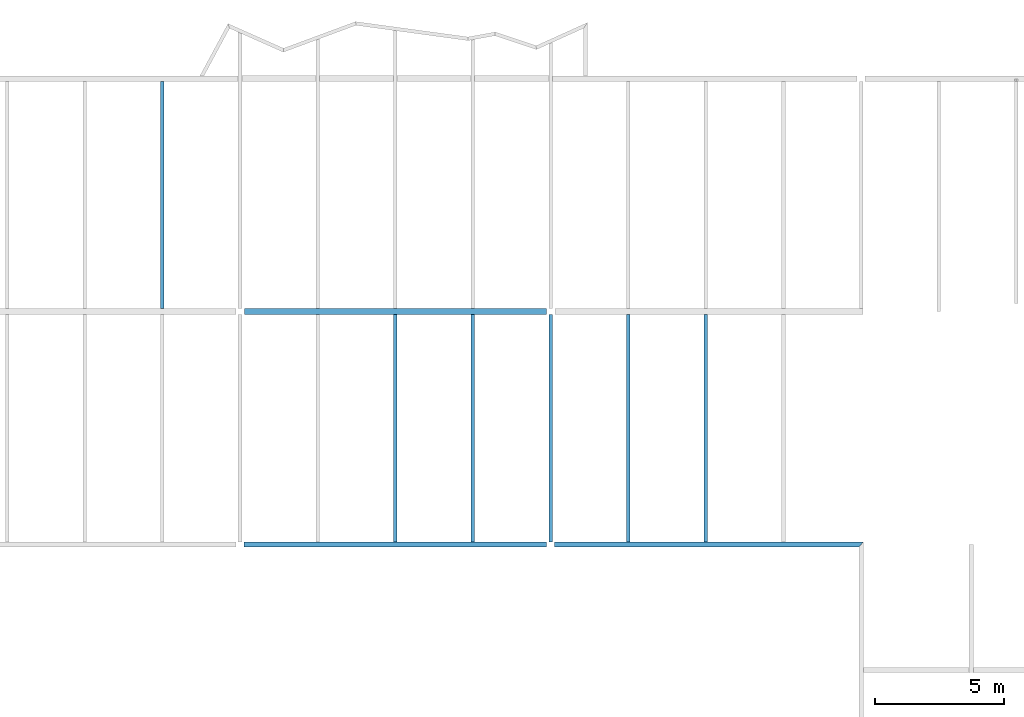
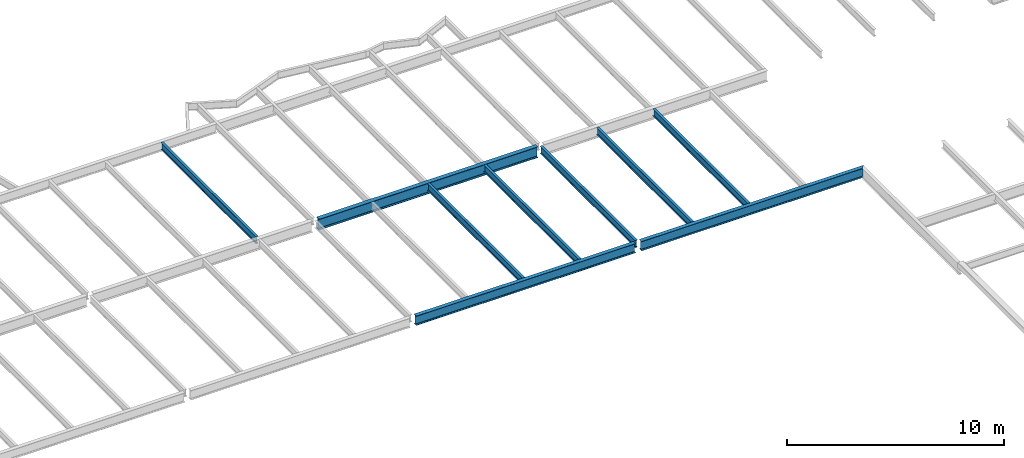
# One storey, part 8 of 26: 9 beams.
"""IFC2X3 building model written with IfcOpenShell, lengths in millimetres."""

from ifc_helpers import new_model, si_unit, origin, place, context, project, spatial, faceted_brep, material, element, save


model = new_model("IFC2X3")

# Units and contexts
context_of_model = context(None, 3, precision=1e-05, world=origin())
ifc_project = project(units=[si_unit("LENGTHUNIT", "METRE", prefix="MILLI")], contexts=[context_of_model])

# Building, storey
building = spatial("IfcBuilding", under=ifc_project, Name="Building", CompositionType="ELEMENT")
storey = spatial("IfcBuildingStorey", under=building, Name="FL4-FRM", CompositionType="ELEMENT")

# Beams
ifc_material_1 = material(Name="A992")
beam_1_placement = place(None, origin())
element("IfcBeam", 1, at=beam_1_placement, inside=storey, material=ifc_material_1, Name="B13", context=context_of_model, shape_type="Brep", body=[
    faceted_brep([(-27070.0, 35895.5, 12974.0), (-26930.0, 35895.5, 12974.0), (-26930.0, 27114.5, 12974.0), (-27070.0, 27114.5, 12974.0), (-26930.0, 35895.5, 12982.8), (-26930.0, 27114.5, 12982.8), (-26986.6, 35895.5, 12982.8), (-26986.6, 27114.5, 12982.8), (-26989.2, 35895.5, 12983.1), (-26989.2, 27114.5, 12983.1), (-26991.7, 35895.5, 12984.2), (-26991.7, 27114.5, 12984.2), (-26993.8, 35895.5, 12985.8), (-26993.8, 27114.5, 12985.8), (-26995.4, 35895.5, 12987.9), (-26995.4, 27114.5, 12987.9), (-26996.5, 35895.5, 12990.4), (-26996.5, 27114.5, 12990.4), (-26996.8, 35895.5, 12993.0), (-26996.8, 27114.5, 12993.0), (-26996.8, 35895.5, 13354.0), (-26996.8, 27114.5, 13354.0), (-26996.5, 35895.5, 13356.6), (-26996.5, 27114.5, 13356.6), (-26995.4, 35895.5, 13359.1), (-26995.4, 27114.5, 13359.1), (-26993.8, 35895.5, 13361.2), (-26993.8, 27114.5, 13361.2), (-26991.7, 35895.5, 13362.8), (-26991.7, 27114.5, 13362.8), (-26989.2, 35895.5, 13363.9), (-26989.2, 27114.5, 13363.9), (-26986.6, 35895.5, 13364.2), (-26986.6, 27114.5, 13364.2), (-26930.0, 35895.5, 13364.2), (-26930.0, 27114.5, 13364.2), (-26930.0, 35895.5, 13373.0), (-26930.0, 27114.5, 13373.0), (-27070.0, 35895.5, 13373.0), (-27070.0, 27114.5, 13373.0), (-27070.0, 35895.5, 13364.2), (-27070.0, 27114.5, 13364.2), (-27013.4, 35895.5, 13364.2), (-27013.4, 27114.5, 13364.2), (-27010.8, 35895.5, 13363.9), (-27010.8, 27114.5, 13363.9), (-27008.3, 35895.5, 13362.8), (-27008.3, 27114.5, 13362.8), (-27006.2, 35895.5, 13361.2), (-27006.2, 27114.5, 13361.2), (-27004.6, 35895.5, 13359.1), (-27004.6, 27114.5, 13359.1), (-27003.5, 35895.5, 13356.6), (-27003.5, 27114.5, 13356.6), (-27003.2, 35895.5, 13354.0), (-27003.2, 27114.5, 13354.0), (-27003.2, 35895.5, 12993.0), (-27003.2, 27114.5, 12993.0), (-27003.5, 35895.5, 12990.4), (-27003.5, 27114.5, 12990.4), (-27004.6, 35895.5, 12987.9), (-27004.6, 27114.5, 12987.9), (-27006.2, 35895.5, 12985.8), (-27006.2, 27114.5, 12985.8), (-27008.3, 35895.5, 12984.2), (-27008.3, 27114.5, 12984.2), (-27010.8, 35895.5, 12983.1), (-27010.8, 27114.5, 12983.1), (-27013.4, 35895.5, 12982.8), (-27013.4, 27114.5, 12982.8), (-27070.0, 35895.5, 12982.8), (-27070.0, 27114.5, 12982.8)], [[[0, 1, 2, 3]], [[1, 4, 5, 2]], [[4, 6, 7, 5]], [[6, 8, 9, 7]], [[8, 10, 11, 9]], [[10, 12, 13, 11]], [[12, 14, 15, 13]], [[14, 16, 17, 15]], [[16, 18, 19, 17]], [[18, 20, 21, 19]], [[20, 22, 23, 21]], [[22, 24, 25, 23]], [[24, 26, 27, 25]], [[26, 28, 29, 27]], [[28, 30, 31, 29]], [[30, 32, 33, 31]], [[32, 34, 35, 33]], [[34, 36, 37, 35]], [[36, 38, 39, 37]], [[38, 40, 41, 39]], [[40, 42, 43, 41]], [[42, 44, 45, 43]], [[44, 46, 47, 45]], [[46, 48, 49, 47]], [[48, 50, 51, 49]], [[50, 52, 53, 51]], [[52, 54, 55, 53]], [[54, 56, 57, 55]], [[56, 58, 59, 57]], [[58, 60, 61, 59]], [[60, 62, 63, 61]], [[62, 64, 65, 63]], [[64, 66, 67, 65]], [[66, 68, 69, 67]], [[68, 70, 71, 69]], [[70, 0, 3, 71]], [[0, 70, 68, 66, 64, 62, 60, 58, 56, 54, 52, 50, 48, 46, 44, 42, 40, 38, 36, 34, 32, 30, 28, 26, 24, 22, 20, 18, 16, 14, 12, 10, 8, 6, 4, 1]], [[3, 2, 5, 7, 9, 11, 13, 15, 17, 19, 21, 23, 25, 27, 29, 31, 33, 35, 37, 39, 41, 43, 45, 47, 49, 51, 53, 55, 57, 59, 61, 63, 65, 67, 69, 71]]]),
])
ifc_material_2 = material(Name="A992")
beam_2_placement = place(None, origin())
element("IfcBeam", 2, at=beam_2_placement, inside=storey, material=ifc_material_2, Name="Column356", context=context_of_model, shape_type="Brep", body=[
    faceted_brep([(-23836.5, 26885.5, 12761.0), (-23836.5, 27114.5, 12761.0), (-12163.5, 27114.5, 12761.0), (-12163.5, 26885.5, 12761.0), (-23836.5, 27114.5, 12780.6), (-12163.5, 27114.5, 12780.6), (-23836.5, 27018.6, 12780.6), (-12163.5, 27018.6, 12780.6), (-23836.5, 27015.4, 12781.0), (-12163.5, 27015.4, 12781.0), (-23836.5, 27012.3, 12782.3), (-12163.5, 27012.3, 12782.3), (-23836.5, 27009.7, 12784.3), (-12163.5, 27009.7, 12784.3), (-23836.5, 27007.7, 12787.0), (-12163.5, 27007.7, 12787.0), (-23836.5, 27006.4, 12790.0), (-12163.5, 27006.4, 12790.0), (-23836.5, 27005.9, 12793.3), (-12163.5, 27005.9, 12793.3), (-23836.5, 27005.9, 13340.7), (-12163.5, 27005.9, 13340.7), (-23836.5, 27006.4, 13344.0), (-12163.5, 27006.4, 13344.0), (-23836.5, 27007.7, 13347.0), (-12163.5, 27007.7, 13347.0), (-23836.5, 27009.7, 13349.7), (-12163.5, 27009.7, 13349.7), (-23836.5, 27012.3, 13351.7), (-12163.5, 27012.3, 13351.7), (-23836.5, 27015.4, 13353.0), (-12163.5, 27015.4, 13353.0), (-23836.5, 27018.6, 13353.4), (-12163.5, 27018.6, 13353.4), (-23836.5, 27114.5, 13353.4), (-12163.5, 27114.5, 13353.4), (-23836.5, 27114.5, 13373.0), (-12163.5, 27114.5, 13373.0), (-23836.5, 26885.5, 13373.0), (-12163.5, 26885.5, 13373.0), (-23836.5, 26885.5, 13353.4), (-12163.5, 26885.5, 13353.4), (-23836.5, 26981.4, 13353.4), (-12163.5, 26981.4, 13353.4), (-23836.5, 26984.6, 13353.0), (-12163.5, 26984.6, 13353.0), (-23836.5, 26987.7, 13351.7), (-12163.5, 26987.7, 13351.7), (-23836.5, 26990.3, 13349.7), (-12163.5, 26990.3, 13349.7), (-23836.5, 26992.3, 13347.0), (-12163.5, 26992.3, 13347.0), (-23836.5, 26993.6, 13344.0), (-12163.5, 26993.6, 13344.0), (-23836.5, 26994.1, 13340.7), (-12163.5, 26994.1, 13340.7), (-23836.5, 26994.1, 12793.3), (-12163.5, 26994.1, 12793.3), (-23836.5, 26993.6, 12790.0), (-12163.5, 26993.6, 12790.0), (-23836.5, 26992.3, 12787.0), (-12163.5, 26992.3, 12787.0), (-23836.5, 26990.3, 12784.3), (-12163.5, 26990.3, 12784.3), (-23836.5, 26987.7, 12782.3), (-12163.5, 26987.7, 12782.3), (-23836.5, 26984.6, 12781.0), (-12163.5, 26984.6, 12781.0), (-23836.5, 26981.4, 12780.6), (-12163.5, 26981.4, 12780.6), (-23836.5, 26885.5, 12780.6), (-12163.5, 26885.5, 12780.6)], [[[0, 1, 2, 3]], [[1, 4, 5, 2]], [[4, 6, 7, 5]], [[6, 8, 9, 7]], [[8, 10, 11, 9]], [[10, 12, 13, 11]], [[12, 14, 15, 13]], [[14, 16, 17, 15]], [[16, 18, 19, 17]], [[18, 20, 21, 19]], [[20, 22, 23, 21]], [[22, 24, 25, 23]], [[24, 26, 27, 25]], [[26, 28, 29, 27]], [[28, 30, 31, 29]], [[30, 32, 33, 31]], [[32, 34, 35, 33]], [[34, 36, 37, 35]], [[36, 38, 39, 37]], [[38, 40, 41, 39]], [[40, 42, 43, 41]], [[42, 44, 45, 43]], [[44, 46, 47, 45]], [[46, 48, 49, 47]], [[48, 50, 51, 49]], [[50, 52, 53, 51]], [[52, 54, 55, 53]], [[54, 56, 57, 55]], [[56, 58, 59, 57]], [[58, 60, 61, 59]], [[60, 62, 63, 61]], [[62, 64, 65, 63]], [[64, 66, 67, 65]], [[66, 68, 69, 67]], [[68, 70, 71, 69]], [[70, 0, 3, 71]], [[0, 70, 68, 66, 64, 62, 60, 58, 56, 54, 52, 50, 48, 46, 44, 42, 40, 38, 36, 34, 32, 30, 28, 26, 24, 22, 20, 18, 16, 14, 12, 10, 8, 6, 4, 1]], [[3, 2, 5, 7, 9, 11, 13, 15, 17, 19, 21, 23, 25, 27, 29, 31, 33, 35, 37, 39, 41, 43, 45, 47, 49, 51, 53, 55, 57, 59, 61, 63, 65, 67, 69, 71]]]),
])
ifc_material_3 = material(Name="A992")
beam_3_placement = place(None, origin())
element("IfcBeam", 3, at=beam_3_placement, inside=storey, material=ifc_material_3, Name="Column381", context=context_of_model, shape_type="Brep", body=[
    faceted_brep([(-23846.0, 17895.5, 12845.0), (-23846.0, 18104.5, 12845.0), (-12154.0, 18104.5, 12845.0), (-12154.0, 17895.5, 12845.0), (-23846.0, 18104.5, 12858.3), (-12154.0, 18104.5, 12858.3), (-23846.0, 18017.4, 12858.3), (-12154.0, 18017.4, 12858.3), (-23846.0, 18014.2, 12858.7), (-12154.0, 18014.2, 12858.7), (-23846.0, 18011.1, 12860.0), (-12154.0, 18011.1, 12860.0), (-23846.0, 18008.5, 12862.0), (-12154.0, 18008.5, 12862.0), (-23846.0, 18006.5, 12864.7), (-12154.0, 18006.5, 12864.7), (-23846.0, 18005.2, 12867.7), (-12154.0, 18005.2, 12867.7), (-23846.0, 18004.8, 12871.0), (-12154.0, 18004.8, 12871.0), (-23846.0, 18004.8, 13347.0), (-12154.0, 18004.8, 13347.0), (-23846.0, 18005.2, 13350.3), (-12154.0, 18005.2, 13350.3), (-23846.0, 18006.5, 13353.3), (-12154.0, 18006.5, 13353.3), (-23846.0, 18008.5, 13356.0), (-12154.0, 18008.5, 13356.0), (-23846.0, 18011.1, 13358.0), (-12154.0, 18011.1, 13358.0), (-23846.0, 18014.2, 13359.3), (-12154.0, 18014.2, 13359.3), (-23846.0, 18017.4, 13359.7), (-12154.0, 18017.4, 13359.7), (-23846.0, 18104.5, 13359.7), (-12154.0, 18104.5, 13359.7), (-23846.0, 18104.5, 13373.0), (-12154.0, 18104.5, 13373.0), (-23846.0, 17895.5, 13373.0), (-12154.0, 17895.5, 13373.0), (-23846.0, 17895.5, 13359.7), (-12154.0, 17895.5, 13359.7), (-23846.0, 17982.6, 13359.7), (-12154.0, 17982.6, 13359.7), (-23846.0, 17985.8, 13359.3), (-12154.0, 17985.8, 13359.3), (-23846.0, 17988.9, 13358.0), (-12154.0, 17988.9, 13358.0), (-23846.0, 17991.5, 13356.0), (-12154.0, 17991.5, 13356.0), (-23846.0, 17993.5, 13353.3), (-12154.0, 17993.5, 13353.3), (-23846.0, 17994.8, 13350.3), (-12154.0, 17994.8, 13350.3), (-23846.0, 17995.3, 13347.0), (-12154.0, 17995.3, 13347.0), (-23846.0, 17995.3, 12871.0), (-12154.0, 17995.3, 12871.0), (-23846.0, 17994.8, 12867.7), (-12154.0, 17994.8, 12867.7), (-23846.0, 17993.5, 12864.7), (-12154.0, 17993.5, 12864.7), (-23846.0, 17991.5, 12862.0), (-12154.0, 17991.5, 12862.0), (-23846.0, 17988.9, 12860.0), (-12154.0, 17988.9, 12860.0), (-23846.0, 17985.8, 12858.7), (-12154.0, 17985.8, 12858.7), (-23846.0, 17982.6, 12858.3), (-12154.0, 17982.6, 12858.3), (-23846.0, 17895.5, 12858.3), (-12154.0, 17895.5, 12858.3)], [[[0, 1, 2, 3]], [[1, 4, 5, 2]], [[4, 6, 7, 5]], [[6, 8, 9, 7]], [[8, 10, 11, 9]], [[10, 12, 13, 11]], [[12, 14, 15, 13]], [[14, 16, 17, 15]], [[16, 18, 19, 17]], [[18, 20, 21, 19]], [[20, 22, 23, 21]], [[22, 24, 25, 23]], [[24, 26, 27, 25]], [[26, 28, 29, 27]], [[28, 30, 31, 29]], [[30, 32, 33, 31]], [[32, 34, 35, 33]], [[34, 36, 37, 35]], [[36, 38, 39, 37]], [[38, 40, 41, 39]], [[40, 42, 43, 41]], [[42, 44, 45, 43]], [[44, 46, 47, 45]], [[46, 48, 49, 47]], [[48, 50, 51, 49]], [[50, 52, 53, 51]], [[52, 54, 55, 53]], [[54, 56, 57, 55]], [[56, 58, 59, 57]], [[58, 60, 61, 59]], [[60, 62, 63, 61]], [[62, 64, 65, 63]], [[64, 66, 67, 65]], [[66, 68, 69, 67]], [[68, 70, 71, 69]], [[70, 0, 3, 71]], [[0, 70, 68, 66, 64, 62, 60, 58, 56, 54, 52, 50, 48, 46, 44, 42, 40, 38, 36, 34, 32, 30, 28, 26, 24, 22, 20, 18, 16, 14, 12, 10, 8, 6, 4, 1]], [[3, 2, 5, 7, 9, 11, 13, 15, 17, 19, 21, 23, 25, 27, 29, 31, 33, 35, 37, 39, 41, 43, 45, 47, 49, 51, 53, 55, 57, 59, 61, 63, 65, 67, 69, 71]]]),
])
ifc_material_4 = material(Name="A992")
beam_4_placement = place(None, origin())
element("IfcBeam", 4, at=beam_4_placement, inside=storey, material=ifc_material_4, Name="Column382", context=context_of_model, shape_type="Brep", body=[
    faceted_brep([(-11846.0, 17895.5, 12845.0), (-11846.0, 18104.5, 12845.0), (89.5, 18104.5, 12845.0), (-89.5, 17895.5, 12845.0), (-11846.0, 18104.5, 12858.3), (89.5, 18104.5, 12858.3), (-11846.0, 18017.4, 12858.3), (14.9452, 18017.4, 12858.3), (-11846.0, 18015.6, 12858.4), (13.41, 18015.7, 12858.4), (-11846.0, 18013.9, 12858.8), (11.894, 18013.9, 12858.8), (-11846.0, 18012.2, 12859.4), (10.4398, 18012.2, 12859.4), (-11846.0, 18010.6, 12860.3), (9.09833, 18010.6, 12860.3), (-11846.0, 18009.1, 12861.4), (7.83895, 18009.2, 12861.4), (-11846.0, 18007.9, 12862.7), (6.74994, 18007.9, 12862.7), (-11846.0, 18006.8, 12864.1), (5.82077, 18006.8, 12864.1), (-11846.0, 18005.9, 12865.7), (5.05428, 18005.9, 12865.7), (-11846.0, 18005.3, 12867.4), (4.53222, 18005.3, 12867.4), (-11846.0, 18004.9, 12869.2), (4.20582, 18004.9, 12869.2), (-11846.0, 18004.8, 12871.0), (4.06818, 18004.8, 12871.0), (-11846.0, 18004.8, 13347.0), (4.06818, 18004.8, 13347.0), (-11846.0, 18004.9, 13348.8), (4.20582, 18004.9, 13348.8), (-11846.0, 18005.3, 13350.6), (4.53222, 18005.3, 13350.6), (-11846.0, 18005.9, 13352.3), (5.05428, 18005.9, 13352.3), (-11846.0, 18006.8, 13353.9), (5.82077, 18006.8, 13353.9), (-11846.0, 18007.9, 13355.3), (6.74994, 18007.9, 13355.3), (-11846.0, 18009.1, 13356.6), (7.83895, 18009.2, 13356.6), (-11846.0, 18010.6, 13357.7), (9.09833, 18010.6, 13357.7), (-11846.0, 18012.2, 13358.6), (10.4398, 18012.2, 13358.6), (-11846.0, 18013.9, 13359.2), (11.894, 18013.9, 13359.2), (-11846.0, 18015.6, 13359.6), (13.41, 18015.7, 13359.6), (-11846.0, 18017.4, 13359.7), (14.9452, 18017.4, 13359.7), (-11846.0, 18104.5, 13359.7), (89.5, 18104.5, 13359.7), (-11846.0, 18104.5, 13373.0), (89.5, 18104.5, 13373.0), (-11846.0, 17895.5, 13373.0), (-89.5, 17895.5, 13373.0), (-11846.0, 17895.5, 13359.7), (-89.5, 17895.5, 13359.7), (-11846.0, 17982.6, 13359.7), (-14.9452, 17982.6, 13359.7), (-11846.0, 17984.4, 13359.6), (-13.41, 17984.3, 13359.6), (-11846.0, 17986.1, 13359.2), (-11.894, 17986.1, 13359.2), (-11846.0, 17987.8, 13358.6), (-10.4398, 17987.8, 13358.6), (-11846.0, 17989.4, 13357.7), (-9.09833, 17989.4, 13357.7), (-11846.0, 17990.9, 13356.6), (-7.83895, 17990.8, 13356.6), (-11846.0, 17992.1, 13355.3), (-6.74994, 17992.1, 13355.3), (-11846.0, 17993.2, 13353.9), (-5.82077, 17993.2, 13353.9), (-11846.0, 17994.1, 13352.3), (-5.05428, 17994.1, 13352.3), (-11846.0, 17994.7, 13350.6), (-4.53222, 17994.7, 13350.6), (-11846.0, 17995.1, 13348.8), (-4.20582, 17995.1, 13348.8), (-11846.0, 17995.3, 13347.0), (-4.06818, 17995.3, 13347.0), (-11846.0, 17995.3, 12871.0), (-4.06818, 17995.3, 12871.0), (-11846.0, 17995.1, 12869.2), (-4.20582, 17995.1, 12869.2), (-11846.0, 17994.7, 12867.4), (-4.53222, 17994.7, 12867.4), (-11846.0, 17994.1, 12865.7), (-5.05428, 17994.1, 12865.7), (-11846.0, 17993.2, 12864.1), (-5.82077, 17993.2, 12864.1), (-11846.0, 17992.1, 12862.7), (-6.74994, 17992.1, 12862.7), (-11846.0, 17990.9, 12861.4), (-7.83895, 17990.8, 12861.4), (-11846.0, 17989.4, 12860.3), (-9.09833, 17989.4, 12860.3), (-11846.0, 17987.8, 12859.4), (-10.4398, 17987.8, 12859.4), (-11846.0, 17986.1, 12858.8), (-11.894, 17986.1, 12858.8), (-11846.0, 17984.4, 12858.4), (-13.41, 17984.3, 12858.4), (-11846.0, 17982.6, 12858.3), (-14.9452, 17982.6, 12858.3), (-11846.0, 17895.5, 12858.3), (-89.5, 17895.5, 12858.3)], [[[0, 1, 2, 3]], [[1, 4, 5, 2]], [[4, 6, 7, 5]], [[6, 8, 9, 7]], [[8, 10, 11, 9]], [[10, 12, 13, 11]], [[12, 14, 15, 13]], [[14, 16, 17, 15]], [[16, 18, 19, 17]], [[18, 20, 21, 19]], [[20, 22, 23, 21]], [[22, 24, 25, 23]], [[24, 26, 27, 25]], [[26, 28, 29, 27]], [[28, 30, 31, 29]], [[30, 32, 33, 31]], [[32, 34, 35, 33]], [[34, 36, 37, 35]], [[36, 38, 39, 37]], [[38, 40, 41, 39]], [[40, 42, 43, 41]], [[42, 44, 45, 43]], [[44, 46, 47, 45]], [[46, 48, 49, 47]], [[48, 50, 51, 49]], [[50, 52, 53, 51]], [[52, 54, 55, 53]], [[54, 56, 57, 55]], [[56, 58, 59, 57]], [[58, 60, 61, 59]], [[60, 62, 63, 61]], [[62, 64, 65, 63]], [[64, 66, 67, 65]], [[66, 68, 69, 67]], [[68, 70, 71, 69]], [[70, 72, 73, 71]], [[72, 74, 75, 73]], [[74, 76, 77, 75]], [[76, 78, 79, 77]], [[78, 80, 81, 79]], [[80, 82, 83, 81]], [[82, 84, 85, 83]], [[84, 86, 87, 85]], [[86, 88, 89, 87]], [[88, 90, 91, 89]], [[90, 92, 93, 91]], [[92, 94, 95, 93]], [[94, 96, 97, 95]], [[96, 98, 99, 97]], [[98, 100, 101, 99]], [[100, 102, 103, 101]], [[102, 104, 105, 103]], [[104, 106, 107, 105]], [[106, 108, 109, 107]], [[108, 110, 111, 109]], [[110, 0, 3, 111]], [[0, 110, 108, 106, 104, 102, 100, 98, 96, 94, 92, 90, 88, 86, 84, 82, 80, 78, 76, 74, 72, 70, 68, 66, 64, 62, 60, 58, 56, 54, 52, 50, 48, 46, 44, 42, 40, 38, 36, 34, 32, 30, 28, 26, 24, 22, 20, 18, 16, 14, 12, 10, 8, 6, 4, 1]], [[3, 2, 5, 7, 9, 11, 13, 15, 17, 19, 21, 23, 25, 27, 29, 31, 33, 35, 37, 39, 41, 43, 45, 47, 49, 51, 53, 55, 57, 59, 61, 63, 65, 67, 69, 71, 73, 75, 77, 79, 81, 83, 85, 87, 89, 91, 93, 95, 97, 99, 101, 103, 105, 107, 109, 111]]]),
])
ifc_material_5 = material(Name="A992")
beam_5_placement = place(None, origin())
element("IfcBeam", 5, at=beam_5_placement, inside=storey, material=ifc_material_5, Name="B180", context=context_of_model, shape_type="Brep", body=[
    faceted_brep([(-5930.0, 18104.5, 12974.0), (-6070.0, 18104.5, 12974.0), (-6070.0, 26885.5, 12974.0), (-5930.0, 26885.5, 12974.0), (-6070.0, 18104.5, 12982.8), (-6070.0, 26885.5, 12982.8), (-6013.4, 18104.5, 12982.8), (-6013.4, 26885.5, 12982.8), (-6010.76, 18104.5, 12983.1), (-6010.76, 26885.5, 12983.1), (-6008.3, 18104.5, 12984.2), (-6008.3, 26885.5, 12984.2), (-6006.19, 18104.5, 12985.8), (-6006.19, 26885.5, 12985.8), (-6004.57, 18104.5, 12987.9), (-6004.57, 26885.5, 12987.9), (-6003.55, 18104.5, 12990.4), (-6003.55, 26885.5, 12990.4), (-6003.2, 18104.5, 12993.0), (-6003.2, 26885.5, 12993.0), (-6003.2, 18104.5, 13354.0), (-6003.2, 26885.5, 13354.0), (-6003.55, 18104.5, 13356.6), (-6003.55, 26885.5, 13356.6), (-6004.57, 18104.5, 13359.1), (-6004.57, 26885.5, 13359.1), (-6006.19, 18104.5, 13361.2), (-6006.19, 26885.5, 13361.2), (-6008.3, 18104.5, 13362.8), (-6008.3, 26885.5, 13362.8), (-6010.76, 18104.5, 13363.9), (-6010.76, 26885.5, 13363.9), (-6013.4, 18104.5, 13364.2), (-6013.4, 26885.5, 13364.2), (-6070.0, 18104.5, 13364.2), (-6070.0, 26885.5, 13364.2), (-6070.0, 18104.5, 13373.0), (-6070.0, 26885.5, 13373.0), (-5930.0, 18104.5, 13373.0), (-5930.0, 26885.5, 13373.0), (-5930.0, 18104.5, 13364.2), (-5930.0, 26885.5, 13364.2), (-5986.6, 18104.5, 13364.2), (-5986.6, 26885.5, 13364.2), (-5989.24, 18104.5, 13363.9), (-5989.24, 26885.5, 13363.9), (-5991.7, 18104.5, 13362.8), (-5991.7, 26885.5, 13362.8), (-5993.81, 18104.5, 13361.2), (-5993.81, 26885.5, 13361.2), (-5995.43, 18104.5, 13359.1), (-5995.43, 26885.5, 13359.1), (-5996.45, 18104.5, 13356.6), (-5996.45, 26885.5, 13356.6), (-5996.8, 18104.5, 13354.0), (-5996.8, 26885.5, 13354.0), (-5996.8, 18104.5, 12993.0), (-5996.8, 26885.5, 12993.0), (-5996.45, 18104.5, 12990.4), (-5996.45, 26885.5, 12990.4), (-5995.43, 18104.5, 12987.9), (-5995.43, 26885.5, 12987.9), (-5993.81, 18104.5, 12985.8), (-5993.81, 26885.5, 12985.8), (-5991.7, 18104.5, 12984.2), (-5991.7, 26885.5, 12984.2), (-5989.24, 18104.5, 12983.1), (-5989.24, 26885.5, 12983.1), (-5986.6, 18104.5, 12982.8), (-5986.6, 26885.5, 12982.8), (-5930.0, 18104.5, 12982.8), (-5930.0, 26885.5, 12982.8)], [[[0, 1, 2, 3]], [[1, 4, 5, 2]], [[4, 6, 7, 5]], [[6, 8, 9, 7]], [[8, 10, 11, 9]], [[10, 12, 13, 11]], [[12, 14, 15, 13]], [[14, 16, 17, 15]], [[16, 18, 19, 17]], [[18, 20, 21, 19]], [[20, 22, 23, 21]], [[22, 24, 25, 23]], [[24, 26, 27, 25]], [[26, 28, 29, 27]], [[28, 30, 31, 29]], [[30, 32, 33, 31]], [[32, 34, 35, 33]], [[34, 36, 37, 35]], [[36, 38, 39, 37]], [[38, 40, 41, 39]], [[40, 42, 43, 41]], [[42, 44, 45, 43]], [[44, 46, 47, 45]], [[46, 48, 49, 47]], [[48, 50, 51, 49]], [[50, 52, 53, 51]], [[52, 54, 55, 53]], [[54, 56, 57, 55]], [[56, 58, 59, 57]], [[58, 60, 61, 59]], [[60, 62, 63, 61]], [[62, 64, 65, 63]], [[64, 66, 67, 65]], [[66, 68, 69, 67]], [[68, 70, 71, 69]], [[70, 0, 3, 71]], [[0, 70, 68, 66, 64, 62, 60, 58, 56, 54, 52, 50, 48, 46, 44, 42, 40, 38, 36, 34, 32, 30, 28, 26, 24, 22, 20, 18, 16, 14, 12, 10, 8, 6, 4, 1]], [[3, 2, 5, 7, 9, 11, 13, 15, 17, 19, 21, 23, 25, 27, 29, 31, 33, 35, 37, 39, 41, 43, 45, 47, 49, 51, 53, 55, 57, 59, 61, 63, 65, 67, 69, 71]]]),
])
ifc_material_6 = material(Name="A992")
beam_6_placement = place(None, origin())
element("IfcBeam", 6, at=beam_6_placement, inside=storey, material=ifc_material_6, Name="B181", context=context_of_model, shape_type="Brep", body=[
    faceted_brep([(-8930.0, 18104.5, 12974.0), (-9070.0, 18104.5, 12974.0), (-9070.0, 26885.5, 12974.0), (-8930.0, 26885.5, 12974.0), (-9070.0, 18104.5, 12982.8), (-9070.0, 26885.5, 12982.8), (-9013.4, 18104.5, 12982.8), (-9013.4, 26885.5, 12982.8), (-9010.76, 18104.5, 12983.1), (-9010.76, 26885.5, 12983.1), (-9008.3, 18104.5, 12984.2), (-9008.3, 26885.5, 12984.2), (-9006.19, 18104.5, 12985.8), (-9006.19, 26885.5, 12985.8), (-9004.57, 18104.5, 12987.9), (-9004.57, 26885.5, 12987.9), (-9003.55, 18104.5, 12990.4), (-9003.55, 26885.5, 12990.4), (-9003.2, 18104.5, 12993.0), (-9003.2, 26885.5, 12993.0), (-9003.2, 18104.5, 13354.0), (-9003.2, 26885.5, 13354.0), (-9003.55, 18104.5, 13356.6), (-9003.55, 26885.5, 13356.6), (-9004.57, 18104.5, 13359.1), (-9004.57, 26885.5, 13359.1), (-9006.19, 18104.5, 13361.2), (-9006.19, 26885.5, 13361.2), (-9008.3, 18104.5, 13362.8), (-9008.3, 26885.5, 13362.8), (-9010.76, 18104.5, 13363.9), (-9010.76, 26885.5, 13363.9), (-9013.4, 18104.5, 13364.2), (-9013.4, 26885.5, 13364.2), (-9070.0, 18104.5, 13364.2), (-9070.0, 26885.5, 13364.2), (-9070.0, 18104.5, 13373.0), (-9070.0, 26885.5, 13373.0), (-8930.0, 18104.5, 13373.0), (-8930.0, 26885.5, 13373.0), (-8930.0, 18104.5, 13364.2), (-8930.0, 26885.5, 13364.2), (-8986.6, 18104.5, 13364.2), (-8986.6, 26885.5, 13364.2), (-8989.24, 18104.5, 13363.9), (-8989.24, 26885.5, 13363.9), (-8991.7, 18104.5, 13362.8), (-8991.7, 26885.5, 13362.8), (-8993.81, 18104.5, 13361.2), (-8993.81, 26885.5, 13361.2), (-8995.43, 18104.5, 13359.1), (-8995.43, 26885.5, 13359.1), (-8996.45, 18104.5, 13356.6), (-8996.45, 26885.5, 13356.6), (-8996.8, 18104.5, 13354.0), (-8996.8, 26885.5, 13354.0), (-8996.8, 18104.5, 12993.0), (-8996.8, 26885.5, 12993.0), (-8996.45, 18104.5, 12990.4), (-8996.45, 26885.5, 12990.4), (-8995.43, 18104.5, 12987.9), (-8995.43, 26885.5, 12987.9), (-8993.81, 18104.5, 12985.8), (-8993.81, 26885.5, 12985.8), (-8991.7, 18104.5, 12984.2), (-8991.7, 26885.5, 12984.2), (-8989.24, 18104.5, 12983.1), (-8989.24, 26885.5, 12983.1), (-8986.6, 18104.5, 12982.8), (-8986.6, 26885.5, 12982.8), (-8930.0, 18104.5, 12982.8), (-8930.0, 26885.5, 12982.8)], [[[0, 1, 2, 3]], [[1, 4, 5, 2]], [[4, 6, 7, 5]], [[6, 8, 9, 7]], [[8, 10, 11, 9]], [[10, 12, 13, 11]], [[12, 14, 15, 13]], [[14, 16, 17, 15]], [[16, 18, 19, 17]], [[18, 20, 21, 19]], [[20, 22, 23, 21]], [[22, 24, 25, 23]], [[24, 26, 27, 25]], [[26, 28, 29, 27]], [[28, 30, 31, 29]], [[30, 32, 33, 31]], [[32, 34, 35, 33]], [[34, 36, 37, 35]], [[36, 38, 39, 37]], [[38, 40, 41, 39]], [[40, 42, 43, 41]], [[42, 44, 45, 43]], [[44, 46, 47, 45]], [[46, 48, 49, 47]], [[48, 50, 51, 49]], [[50, 52, 53, 51]], [[52, 54, 55, 53]], [[54, 56, 57, 55]], [[56, 58, 59, 57]], [[58, 60, 61, 59]], [[60, 62, 63, 61]], [[62, 64, 65, 63]], [[64, 66, 67, 65]], [[66, 68, 69, 67]], [[68, 70, 71, 69]], [[70, 0, 3, 71]], [[0, 70, 68, 66, 64, 62, 60, 58, 56, 54, 52, 50, 48, 46, 44, 42, 40, 38, 36, 34, 32, 30, 28, 26, 24, 22, 20, 18, 16, 14, 12, 10, 8, 6, 4, 1]], [[3, 2, 5, 7, 9, 11, 13, 15, 17, 19, 21, 23, 25, 27, 29, 31, 33, 35, 37, 39, 41, 43, 45, 47, 49, 51, 53, 55, 57, 59, 61, 63, 65, 67, 69, 71]]]),
])
ifc_material_7 = material(Name="A992")
beam_7_placement = place(None, origin())
element("IfcBeam", 7, at=beam_7_placement, inside=storey, material=ifc_material_7, Name="B182", context=context_of_model, shape_type="Brep", body=[
    faceted_brep([(-11930.0, 18104.5, 12974.0), (-12070.0, 18104.5, 12974.0), (-12070.0, 26885.5, 12974.0), (-11930.0, 26885.5, 12974.0), (-12070.0, 18104.5, 12982.8), (-12070.0, 26885.5, 12982.8), (-12013.4, 18104.5, 12982.8), (-12013.4, 26885.5, 12982.8), (-12010.8, 18104.5, 12983.1), (-12010.8, 26885.5, 12983.1), (-12008.3, 18104.5, 12984.2), (-12008.3, 26885.5, 12984.2), (-12006.2, 18104.5, 12985.8), (-12006.2, 26885.5, 12985.8), (-12004.6, 18104.5, 12987.9), (-12004.6, 26885.5, 12987.9), (-12003.5, 18104.5, 12990.4), (-12003.5, 26885.5, 12990.4), (-12003.2, 18104.5, 12993.0), (-12003.2, 26885.5, 12993.0), (-12003.2, 18104.5, 13354.0), (-12003.2, 26885.5, 13354.0), (-12003.5, 18104.5, 13356.6), (-12003.5, 26885.5, 13356.6), (-12004.6, 18104.5, 13359.1), (-12004.6, 26885.5, 13359.1), (-12006.2, 18104.5, 13361.2), (-12006.2, 26885.5, 13361.2), (-12008.3, 18104.5, 13362.8), (-12008.3, 26885.5, 13362.8), (-12010.8, 18104.5, 13363.9), (-12010.8, 26885.5, 13363.9), (-12013.4, 18104.5, 13364.2), (-12013.4, 26885.5, 13364.2), (-12070.0, 18104.5, 13364.2), (-12070.0, 26885.5, 13364.2), (-12070.0, 18104.5, 13373.0), (-12070.0, 26885.5, 13373.0), (-11930.0, 18104.5, 13373.0), (-11930.0, 26885.5, 13373.0), (-11930.0, 18104.5, 13364.2), (-11930.0, 26885.5, 13364.2), (-11986.6, 18104.5, 13364.2), (-11986.6, 26885.5, 13364.2), (-11989.2, 18104.5, 13363.9), (-11989.2, 26885.5, 13363.9), (-11991.7, 18104.5, 13362.8), (-11991.7, 26885.5, 13362.8), (-11993.8, 18104.5, 13361.2), (-11993.8, 26885.5, 13361.2), (-11995.4, 18104.5, 13359.1), (-11995.4, 26885.5, 13359.1), (-11996.5, 18104.5, 13356.6), (-11996.5, 26885.5, 13356.6), (-11996.8, 18104.5, 13354.0), (-11996.8, 26885.5, 13354.0), (-11996.8, 18104.5, 12993.0), (-11996.8, 26885.5, 12993.0), (-11996.5, 18104.5, 12990.4), (-11996.5, 26885.5, 12990.4), (-11995.4, 18104.5, 12987.9), (-11995.4, 26885.5, 12987.9), (-11993.8, 18104.5, 12985.8), (-11993.8, 26885.5, 12985.8), (-11991.7, 18104.5, 12984.2), (-11991.7, 26885.5, 12984.2), (-11989.2, 18104.5, 12983.1), (-11989.2, 26885.5, 12983.1), (-11986.6, 18104.5, 12982.8), (-11986.6, 26885.5, 12982.8), (-11930.0, 18104.5, 12982.8), (-11930.0, 26885.5, 12982.8)], [[[0, 1, 2, 3]], [[1, 4, 5, 2]], [[4, 6, 7, 5]], [[6, 8, 9, 7]], [[8, 10, 11, 9]], [[10, 12, 13, 11]], [[12, 14, 15, 13]], [[14, 16, 17, 15]], [[16, 18, 19, 17]], [[18, 20, 21, 19]], [[20, 22, 23, 21]], [[22, 24, 25, 23]], [[24, 26, 27, 25]], [[26, 28, 29, 27]], [[28, 30, 31, 29]], [[30, 32, 33, 31]], [[32, 34, 35, 33]], [[34, 36, 37, 35]], [[36, 38, 39, 37]], [[38, 40, 41, 39]], [[40, 42, 43, 41]], [[42, 44, 45, 43]], [[44, 46, 47, 45]], [[46, 48, 49, 47]], [[48, 50, 51, 49]], [[50, 52, 53, 51]], [[52, 54, 55, 53]], [[54, 56, 57, 55]], [[56, 58, 59, 57]], [[58, 60, 61, 59]], [[60, 62, 63, 61]], [[62, 64, 65, 63]], [[64, 66, 67, 65]], [[66, 68, 69, 67]], [[68, 70, 71, 69]], [[70, 0, 3, 71]], [[0, 70, 68, 66, 64, 62, 60, 58, 56, 54, 52, 50, 48, 46, 44, 42, 40, 38, 36, 34, 32, 30, 28, 26, 24, 22, 20, 18, 16, 14, 12, 10, 8, 6, 4, 1]], [[3, 2, 5, 7, 9, 11, 13, 15, 17, 19, 21, 23, 25, 27, 29, 31, 33, 35, 37, 39, 41, 43, 45, 47, 49, 51, 53, 55, 57, 59, 61, 63, 65, 67, 69, 71]]]),
])
ifc_material_8 = material(Name="A992")
beam_8_placement = place(None, origin())
element("IfcBeam", 8, at=beam_8_placement, inside=storey, material=ifc_material_8, Name="B183", context=context_of_model, shape_type="Brep", body=[
    faceted_brep([(-14930.0, 18104.5, 12974.0), (-15070.0, 18104.5, 12974.0), (-15070.0, 26885.5, 12974.0), (-14930.0, 26885.5, 12974.0), (-15070.0, 18104.5, 12982.8), (-15070.0, 26885.5, 12982.8), (-15013.4, 18104.5, 12982.8), (-15013.4, 26885.5, 12982.8), (-15010.8, 18104.5, 12983.1), (-15010.8, 26885.5, 12983.1), (-15008.3, 18104.5, 12984.2), (-15008.3, 26885.5, 12984.2), (-15006.2, 18104.5, 12985.8), (-15006.2, 26885.5, 12985.8), (-15004.6, 18104.5, 12987.9), (-15004.6, 26885.5, 12987.9), (-15003.5, 18104.5, 12990.4), (-15003.5, 26885.5, 12990.4), (-15003.2, 18104.5, 12993.0), (-15003.2, 26885.5, 12993.0), (-15003.2, 18104.5, 13354.0), (-15003.2, 26885.5, 13354.0), (-15003.5, 18104.5, 13356.6), (-15003.5, 26885.5, 13356.6), (-15004.6, 18104.5, 13359.1), (-15004.6, 26885.5, 13359.1), (-15006.2, 18104.5, 13361.2), (-15006.2, 26885.5, 13361.2), (-15008.3, 18104.5, 13362.8), (-15008.3, 26885.5, 13362.8), (-15010.8, 18104.5, 13363.9), (-15010.8, 26885.5, 13363.9), (-15013.4, 18104.5, 13364.2), (-15013.4, 26885.5, 13364.2), (-15070.0, 18104.5, 13364.2), (-15070.0, 26885.5, 13364.2), (-15070.0, 18104.5, 13373.0), (-15070.0, 26885.5, 13373.0), (-14930.0, 18104.5, 13373.0), (-14930.0, 26885.5, 13373.0), (-14930.0, 18104.5, 13364.2), (-14930.0, 26885.5, 13364.2), (-14986.6, 18104.5, 13364.2), (-14986.6, 26885.5, 13364.2), (-14989.2, 18104.5, 13363.9), (-14989.2, 26885.5, 13363.9), (-14991.7, 18104.5, 13362.8), (-14991.7, 26885.5, 13362.8), (-14993.8, 18104.5, 13361.2), (-14993.8, 26885.5, 13361.2), (-14995.4, 18104.5, 13359.1), (-14995.4, 26885.5, 13359.1), (-14996.5, 18104.5, 13356.6), (-14996.5, 26885.5, 13356.6), (-14996.8, 18104.5, 13354.0), (-14996.8, 26885.5, 13354.0), (-14996.8, 18104.5, 12993.0), (-14996.8, 26885.5, 12993.0), (-14996.5, 18104.5, 12990.4), (-14996.5, 26885.5, 12990.4), (-14995.4, 18104.5, 12987.9), (-14995.4, 26885.5, 12987.9), (-14993.8, 18104.5, 12985.8), (-14993.8, 26885.5, 12985.8), (-14991.7, 18104.5, 12984.2), (-14991.7, 26885.5, 12984.2), (-14989.2, 18104.5, 12983.1), (-14989.2, 26885.5, 12983.1), (-14986.6, 18104.5, 12982.8), (-14986.6, 26885.5, 12982.8), (-14930.0, 18104.5, 12982.8), (-14930.0, 26885.5, 12982.8)], [[[0, 1, 2, 3]], [[1, 4, 5, 2]], [[4, 6, 7, 5]], [[6, 8, 9, 7]], [[8, 10, 11, 9]], [[10, 12, 13, 11]], [[12, 14, 15, 13]], [[14, 16, 17, 15]], [[16, 18, 19, 17]], [[18, 20, 21, 19]], [[20, 22, 23, 21]], [[22, 24, 25, 23]], [[24, 26, 27, 25]], [[26, 28, 29, 27]], [[28, 30, 31, 29]], [[30, 32, 33, 31]], [[32, 34, 35, 33]], [[34, 36, 37, 35]], [[36, 38, 39, 37]], [[38, 40, 41, 39]], [[40, 42, 43, 41]], [[42, 44, 45, 43]], [[44, 46, 47, 45]], [[46, 48, 49, 47]], [[48, 50, 51, 49]], [[50, 52, 53, 51]], [[52, 54, 55, 53]], [[54, 56, 57, 55]], [[56, 58, 59, 57]], [[58, 60, 61, 59]], [[60, 62, 63, 61]], [[62, 64, 65, 63]], [[64, 66, 67, 65]], [[66, 68, 69, 67]], [[68, 70, 71, 69]], [[70, 0, 3, 71]], [[0, 70, 68, 66, 64, 62, 60, 58, 56, 54, 52, 50, 48, 46, 44, 42, 40, 38, 36, 34, 32, 30, 28, 26, 24, 22, 20, 18, 16, 14, 12, 10, 8, 6, 4, 1]], [[3, 2, 5, 7, 9, 11, 13, 15, 17, 19, 21, 23, 25, 27, 29, 31, 33, 35, 37, 39, 41, 43, 45, 47, 49, 51, 53, 55, 57, 59, 61, 63, 65, 67, 69, 71]]]),
])
ifc_material_9 = material(Name="A992")
beam_9_placement = place(None, origin())
element("IfcBeam", 9, at=beam_9_placement, inside=storey, material=ifc_material_9, Name="B184", context=context_of_model, shape_type="Brep", body=[
    faceted_brep([(-17930.0, 18104.5, 12974.0), (-18070.0, 18104.5, 12974.0), (-18070.0, 26885.5, 12974.0), (-17930.0, 26885.5, 12974.0), (-18070.0, 18104.5, 12982.8), (-18070.0, 26885.5, 12982.8), (-18013.4, 18104.5, 12982.8), (-18013.4, 26885.5, 12982.8), (-18010.8, 18104.5, 12983.1), (-18010.8, 26885.5, 12983.1), (-18008.3, 18104.5, 12984.2), (-18008.3, 26885.5, 12984.2), (-18006.2, 18104.5, 12985.8), (-18006.2, 26885.5, 12985.8), (-18004.6, 18104.5, 12987.9), (-18004.6, 26885.5, 12987.9), (-18003.5, 18104.5, 12990.4), (-18003.5, 26885.5, 12990.4), (-18003.2, 18104.5, 12993.0), (-18003.2, 26885.5, 12993.0), (-18003.2, 18104.5, 13354.0), (-18003.2, 26885.5, 13354.0), (-18003.5, 18104.5, 13356.6), (-18003.5, 26885.5, 13356.6), (-18004.6, 18104.5, 13359.1), (-18004.6, 26885.5, 13359.1), (-18006.2, 18104.5, 13361.2), (-18006.2, 26885.5, 13361.2), (-18008.3, 18104.5, 13362.8), (-18008.3, 26885.5, 13362.8), (-18010.8, 18104.5, 13363.9), (-18010.8, 26885.5, 13363.9), (-18013.4, 18104.5, 13364.2), (-18013.4, 26885.5, 13364.2), (-18070.0, 18104.5, 13364.2), (-18070.0, 26885.5, 13364.2), (-18070.0, 18104.5, 13373.0), (-18070.0, 26885.5, 13373.0), (-17930.0, 18104.5, 13373.0), (-17930.0, 26885.5, 13373.0), (-17930.0, 18104.5, 13364.2), (-17930.0, 26885.5, 13364.2), (-17986.6, 18104.5, 13364.2), (-17986.6, 26885.5, 13364.2), (-17989.2, 18104.5, 13363.9), (-17989.2, 26885.5, 13363.9), (-17991.7, 18104.5, 13362.8), (-17991.7, 26885.5, 13362.8), (-17993.8, 18104.5, 13361.2), (-17993.8, 26885.5, 13361.2), (-17995.4, 18104.5, 13359.1), (-17995.4, 26885.5, 13359.1), (-17996.5, 18104.5, 13356.6), (-17996.5, 26885.5, 13356.6), (-17996.8, 18104.5, 13354.0), (-17996.8, 26885.5, 13354.0), (-17996.8, 18104.5, 12993.0), (-17996.8, 26885.5, 12993.0), (-17996.5, 18104.5, 12990.4), (-17996.5, 26885.5, 12990.4), (-17995.4, 18104.5, 12987.9), (-17995.4, 26885.5, 12987.9), (-17993.8, 18104.5, 12985.8), (-17993.8, 26885.5, 12985.8), (-17991.7, 18104.5, 12984.2), (-17991.7, 26885.5, 12984.2), (-17989.2, 18104.5, 12983.1), (-17989.2, 26885.5, 12983.1), (-17986.6, 18104.5, 12982.8), (-17986.6, 26885.5, 12982.8), (-17930.0, 18104.5, 12982.8), (-17930.0, 26885.5, 12982.8)], [[[0, 1, 2, 3]], [[1, 4, 5, 2]], [[4, 6, 7, 5]], [[6, 8, 9, 7]], [[8, 10, 11, 9]], [[10, 12, 13, 11]], [[12, 14, 15, 13]], [[14, 16, 17, 15]], [[16, 18, 19, 17]], [[18, 20, 21, 19]], [[20, 22, 23, 21]], [[22, 24, 25, 23]], [[24, 26, 27, 25]], [[26, 28, 29, 27]], [[28, 30, 31, 29]], [[30, 32, 33, 31]], [[32, 34, 35, 33]], [[34, 36, 37, 35]], [[36, 38, 39, 37]], [[38, 40, 41, 39]], [[40, 42, 43, 41]], [[42, 44, 45, 43]], [[44, 46, 47, 45]], [[46, 48, 49, 47]], [[48, 50, 51, 49]], [[50, 52, 53, 51]], [[52, 54, 55, 53]], [[54, 56, 57, 55]], [[56, 58, 59, 57]], [[58, 60, 61, 59]], [[60, 62, 63, 61]], [[62, 64, 65, 63]], [[64, 66, 67, 65]], [[66, 68, 69, 67]], [[68, 70, 71, 69]], [[70, 0, 3, 71]], [[0, 70, 68, 66, 64, 62, 60, 58, 56, 54, 52, 50, 48, 46, 44, 42, 40, 38, 36, 34, 32, 30, 28, 26, 24, 22, 20, 18, 16, 14, 12, 10, 8, 6, 4, 1]], [[3, 2, 5, 7, 9, 11, 13, 15, 17, 19, 21, 23, 25, 27, 29, 31, 33, 35, 37, 39, 41, 43, 45, 47, 49, 51, 53, 55, 57, 59, 61, 63, 65, 67, 69, 71]]]),
])

save(model, "model.ifc")
